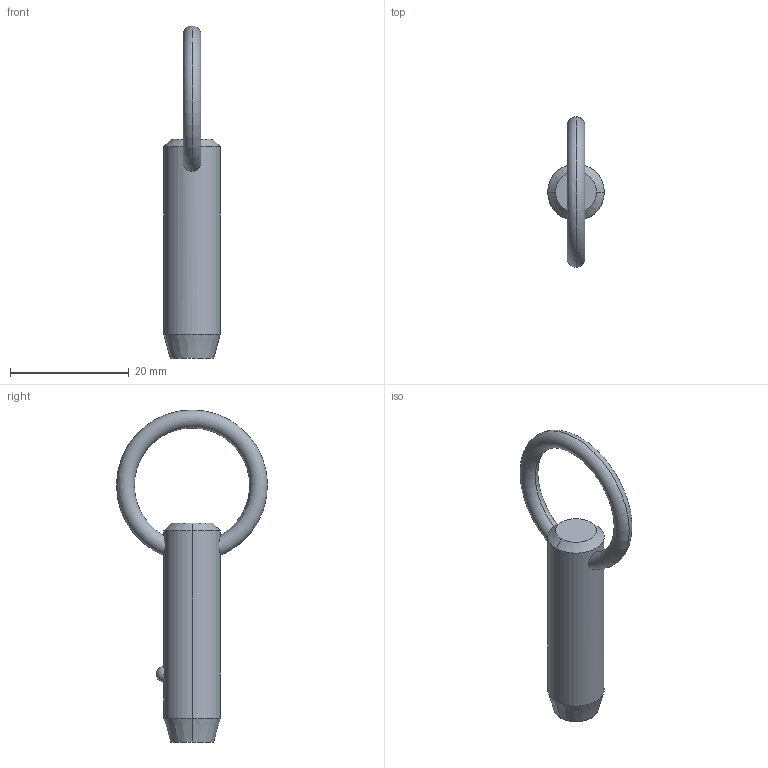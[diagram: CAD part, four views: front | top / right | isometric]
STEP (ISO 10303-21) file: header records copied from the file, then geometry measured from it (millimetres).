
FILE_DESCRIPTION (( 'STEP AP203' ), '1' );
FILE_NAME ('P1250.037-070.step', '2019-07-29T19:58:24', ( '' ), ( '' ), 'SwSTEP 2.0', 'SolidWorks 2017', '' );
FILE_SCHEMA (( 'CONFIG_CONTROL_DESIGN' ));
Length unit declared in the file: millimetre
Products named in the file (1): P1250.037-070
Bounding box: 9.52 x 25.39 x 55.9 mm (x, y, z)
Volume: 2974.2 mm3; surface area: 1744.3 mm2
Topology: 1 solids, 1 shells, 12 faces, 28 edges, 17 vertices
Faces by surface type: cone 4, torus 2, sphere 2, cylinder 2, plane 2
Entity records: 523 total; most frequent: CARTESIAN_POINT 190, DIRECTION 56, ORIENTED_EDGE 48, AXIS2_PLACEMENT_3D 25, EDGE_CURVE 24, VERTEX_POINT 15, EDGE_LOOP 15, FACE_OUTER_BOUND 12
